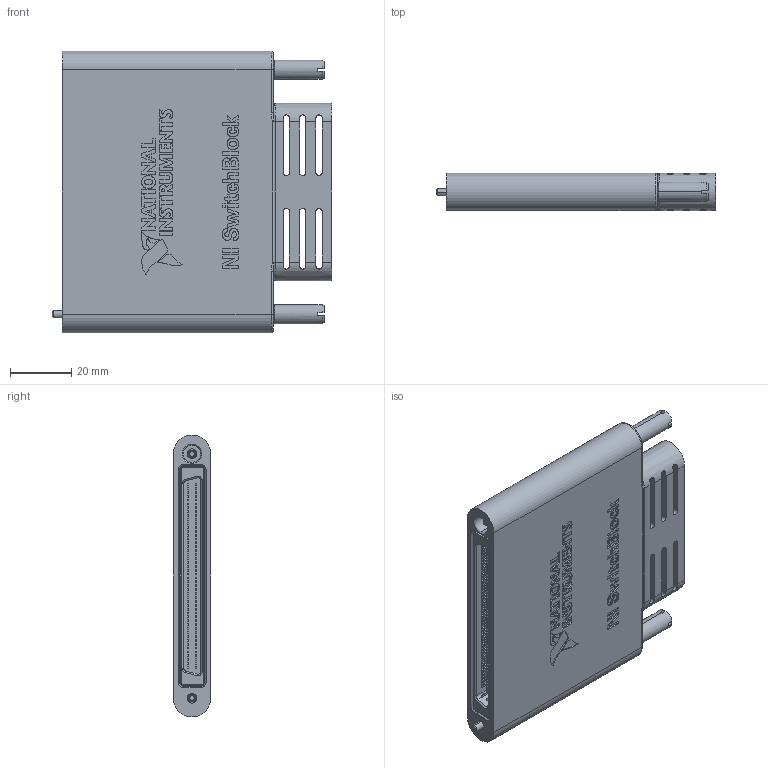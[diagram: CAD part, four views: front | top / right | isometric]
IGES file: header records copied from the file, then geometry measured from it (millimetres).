
Start section:  PTC IGES file: cu_sh96f-96m_male.igs
Global section: file name: cu_sh96f-96m_male.igs; native system: Pro/ENGINEER by Parametric Technology Corporation; preprocessor: 2006080; author: jjorden; organization: Unknown; date: 100521.133610; units: inch
Bounding box: 91.26 x 12.19 x 91.95 mm (x, y, z)
Surface area: 32766 mm2 (no closed solid volume)
Topology: 0 solids, 0 shells, 2953 faces, 15376 edges, 15376 vertices
Faces by surface type: bspline 2273, revolution 484, extrusion 196
